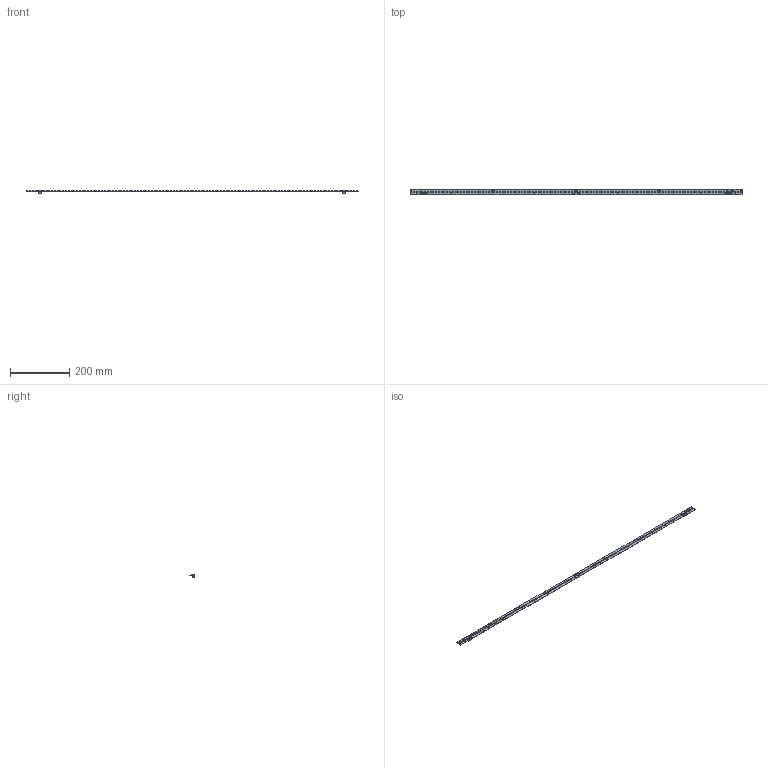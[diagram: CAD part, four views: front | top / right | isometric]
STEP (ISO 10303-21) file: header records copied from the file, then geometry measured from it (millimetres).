
FILE_DESCRIPTION(('Creo Elements/Direct Modeling STEP Export'),'2;1');
FILE_NAME('3D-Model_WU-M-708-BC.stp','2023-03-28T14:40:40',(''),(''),'PTC Creo Elements/Direct Modeling STEP processor for AP214 (Solid Model)','PTC Creo Elements/Direct Modeling 19.0E 27-Jun-2016 (C) Parametric Technology GmbH','');
FILE_SCHEMA(('AUTOMOTIVE_DESIGN { 1 0 10303 214 1 1 1 1 }'));
Length unit declared in the file: millimetre
Products named in the file (383): P1.PRT; PLATE_BASE_WU-M-708_99-6830.PRT; PLATE_BASE_WU-M-708_99-7330.ASM; PLATE_BASE_WU-M-708_98-11980.PRT; PLATE_BASE_WU-M-708_98-12430.ASM; PLATE_BASE_WU-M-708_97-17460.PRT; PLATE_BASE_WU-M-708_97-17920.ASM; PLATE_BASE_WU-M-708_96-22870.PRT; PLATE_BASE_WU-M-708_96-23330.ASM; PLATE_BASE_WU-M-708_95-35320.PRT; PLATE_BASE_WU-M-708_95-35950.ASM; PLATE_BASE_WU-M-708_94-45480.PRT; PLATE_BASE_WU-M-708_94-46050.ASM; PLATE_BASE_WU-M-708_93-56800.PRT; PLATE_BASE_WU-M-708_93-57400.ASM; PLATE_BASE_WU-M-708_92-65710.PRT; PLATE_BASE_WU-M-708_92-66250.ASM; PLATE_BASE_WU-M-708_91-75780.PRT; PLATE_BASE_WU-M-708_91-76350.ASM; PLATE_BASE_WU-M-708_90-82200.PRT; PLATE_BASE_WU-M-708_90-82680.ASM; PLATE_BASE_WU-M-708_9-94670.PRT; PLATE_BASE_WU-M-708_9-95300.ASM; PLATE_BASE_WU-M-708_89-100650.PRT; PLATE_BASE_WU-M-708_89-101120.ASM; PLATE_BASE_WU-M-708_88-119270.PRT; PLATE_BASE_WU-M-708_88-120060.ASM; PLATE_BASE_WU-M-708_87-126750.PRT; PLATE_BASE_WU-M-708_87-127250.ASM; PLATE_BASE_WU-M-708_86-137620.PRT; PLATE_BASE_WU-M-708_86-138210.ASM; PLATE_BASE_WU-M-708_85-144060.PRT; PLATE_BASE_WU-M-708_85-144540.ASM; PLATE_BASE_WU-M-708_84-151610.PRT; PLATE_BASE_WU-M-708_84-152120.ASM; PLATE_BASE_WU-M-708_83-155950.PRT; PLATE_BASE_WU-M-708_83-156380.ASM; PLATE_BASE_WU-M-708_82-163450.PRT; PLATE_BASE_WU-M-708_82-163960.ASM; PLATE_BASE_WU-M-708_81-169310.PRT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
Assembly tree (501 placements, depth 3):
  3D-MODEL_WU-M-708-BC.stp
    CON0101-1482050.ASM
      CON0101-1479830.PRT.1
      CON0101-1479830.PRT
    CON0101_1-1405960.ASM
    LED-DIODA_-1329870.ASM
      LED-DIODA_-1295330.PRT
    LED-DIODA__10.ASM
      LED-DIODA_-1295330.PRT
    LED-DIODA__100.ASM
      LED-DIODA_-1295330.PRT
    LED-DIODA__101.ASM
      LED-DIODA_-1295330.PRT
    LED-DIODA__102.ASM
      LED-DIODA_-1295330.PRT
    LED-DIODA__103.ASM
      LED-DIODA_-1295330.PRT
    LED-DIODA__104.ASM
      LED-DIODA_-1295330.PRT
    LED-DIODA__105.ASM
      LED-DIODA_-1295330.PRT
    LED-DIODA__106.ASM
      LED-DIODA_-1295330.PRT
    LED-DIODA__107.ASM
      LED-DIODA_-1295330.PRT
    LED-DIODA__108.ASM
      LED-DIODA_-1295330.PRT
    LED-DIODA__109.ASM
      LED-DIODA_-1295330.PRT
    LED-DIODA__11.ASM
      LED-DIODA_-1295330.PRT
    LED-DIODA__110.ASM
      LED-DIODA_-1295330.PRT
    LED-DIODA__111.ASM
      LED-DIODA_-1295330.PRT
    LED-DIODA__112.ASM
      LED-DIODA_-1295330.PRT
    LED-DIODA__113.ASM
      LED-DIODA_-1295330.PRT
    LED-DIODA__114.ASM
      LED-DIODA_-1295330.PRT
    LED-DIODA__115.ASM
      LED-DIODA_-1295330.PRT
    LED-DIODA__116.ASM
      LED-DIODA_-1295330.PRT
    LED-DIODA__117.ASM
      LED-DIODA_-1295330.PRT
    LED-DIODA__118.ASM
      LED-DIODA_-1295330.PRT
    LED-DIODA__119.ASM
      LED-DIODA_-1295330.PRT
    LED-DIODA__12.ASM
      LED-DIODA_-1295330.PRT
    LED-DIODA__120.ASM
      LED-DIODA_-1295330.PRT
    LED-DIODA__13.ASM
      LED-DIODA_-1295330.PRT
    LED-DIODA__14.ASM
      LED-DIODA_-1295330.PRT
    LED-DIODA__15.ASM
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Bounding box: 1119 x 20 x 7.45 mm (x, y, z)
Volume: 23229.1 mm3; surface area: 51767.6 mm2
Topology: 250 solids, 250 shells, 12584 faces, 34702 edges, 22964 vertices
Faces by surface type: plane 9777, cylinder 2795, cone 12
Entity records: 147690 total; most frequent: CARTESIAN_POINT 19909, DIRECTION 19158, ORIENTED_EDGE 18948, EDGE_CURVE 9474, VECTOR 7644, LINE 7644, VERTEX_POINT 6304, AXIS2_PLACEMENT_3D 5757
